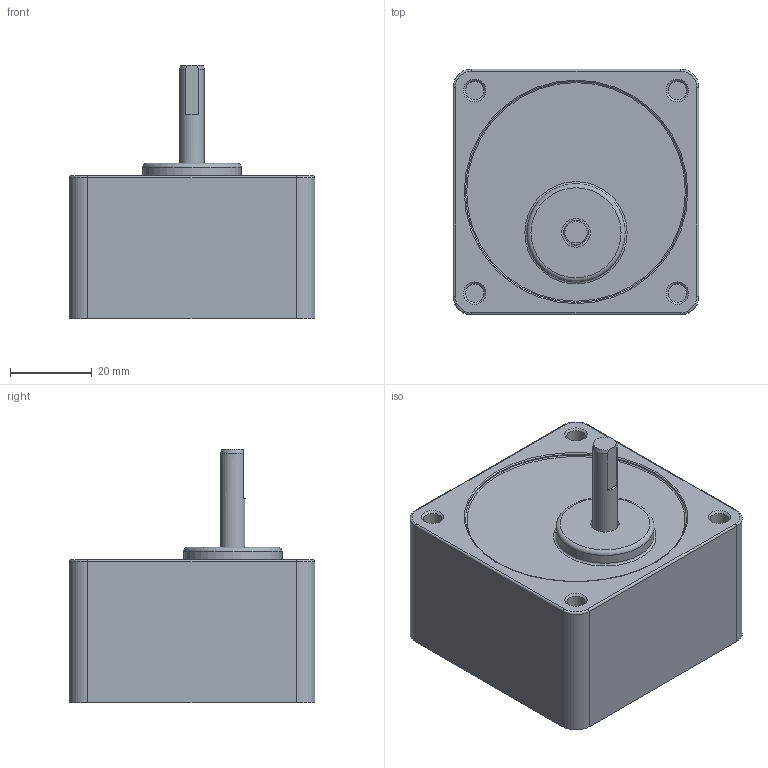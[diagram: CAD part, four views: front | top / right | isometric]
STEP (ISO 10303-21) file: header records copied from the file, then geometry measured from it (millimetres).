
FILE_DESCRIPTION((''),'2;1');
FILE_NAME('D:\STP파일\GEAR HEAD\3W\S6DT20~250.stp','2013-05-20T19:03:11',('leebh'),(''),'Autodesk Inventor 2011','Autodesk Inventor 2011','');
FILE_SCHEMA(('AUTOMOTIVE_DESIGN { 1 0 10303 214 1 1 1 1 }'));
Length unit declared in the file: millimetre
Products named in the file (1): S9I90G-T1
Bounding box: 60 x 60 x 62 mm (x, y, z)
Volume: 112831.2 mm3; surface area: 18899.1 mm2
Topology: 1 solids, 1 shells, 49 faces, 95 edges, 58 vertices
Faces by surface type: cylinder 18, plane 18, torus 8, cone 5
Full cylindrical faces by diameter (mm): 4.5 x4, 6 x2, 7 x1, 24 x1, 53.997 x1, 54 x1
Entity records: 1176 total; most frequent: DIRECTION 224, CARTESIAN_POINT 187, ORIENTED_EDGE 152, AXIS2_PLACEMENT_3D 100, EDGE_LOOP 77, EDGE_CURVE 76, VERTEX_POINT 57, CIRCLE 50
